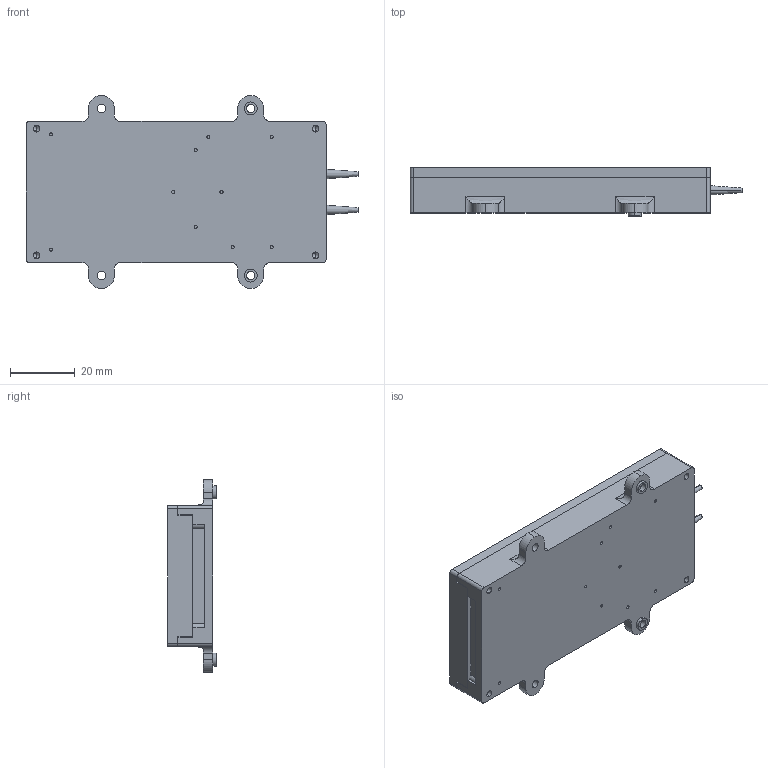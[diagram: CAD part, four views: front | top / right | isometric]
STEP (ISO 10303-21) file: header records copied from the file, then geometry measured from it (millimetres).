
FILE_DESCRIPTION(/* description */ (''),/* implementation_level */ '2;1');
FILE_NAME(/* name */ '新装配体_stp.stp',/* time_stamp */ '2026-07-21T15:41:17+08:00',/* author */ (''),/* organization */ (''),/* preprocessor_version */ 'ST-DEVELOPER v20.1',/* originating_system */ 'SIEMENS PLM Software NX2512.1700',/* authorisation */ '');
FILE_SCHEMA (('AUTOMOTIVE_DESIGN { 1 0 10303 214 3 1 1 1 }'));
Length unit declared in the file: millimetre
Products named in the file (4): 1013-上板_step; 1013-下壳_step; 单纤橡胶尾套_step; 装配体_stp
Assembly tree (4 placements, depth 2):
  装配体_stp
    单纤橡胶尾套_step  x2
    1013-下壳_step
    1013-上板_step
Bounding box: 102.3 x 14.89 x 59.5 mm (x, y, z)
Volume: 53922.7 mm3; surface area: 22140 mm2
Topology: 4 solids, 4 shells, 268 faces, 748 edges, 486 vertices
Faces by surface type: cylinder 134, plane 102, cone 28, extrusion 4
Full cylindrical faces by diameter (mm): 0.95 x4, 1.25 x6
Entity records: 8767 total; most frequent: CARTESIAN_POINT 1602, DIRECTION 1516, ORIENTED_EDGE 1448, EDGE_CURVE 724, AXIS2_PLACEMENT_3D 544, VERTEX_POINT 494, VECTOR 428, LINE 424
